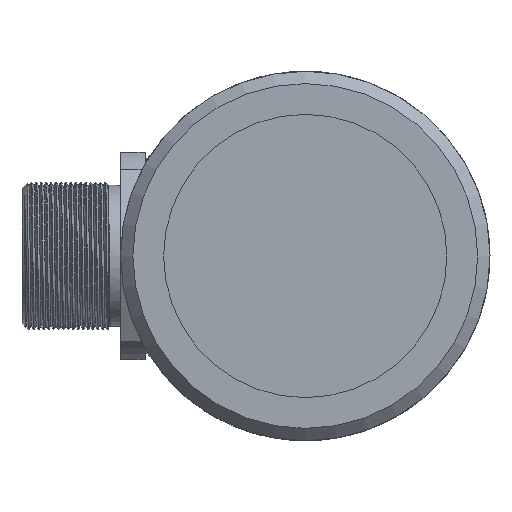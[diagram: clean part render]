
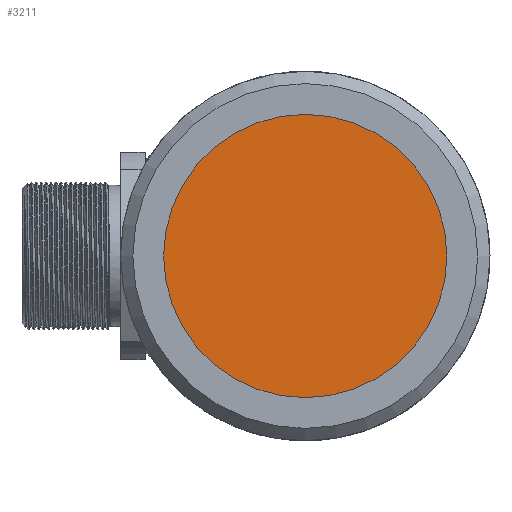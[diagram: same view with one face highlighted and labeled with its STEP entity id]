
A CAD part, left-side view. The second image highlights one B-rep face of the part: STEP entity #3211.
In plain terms, the highlighted planar face has unit normal (-1, 0, 0).
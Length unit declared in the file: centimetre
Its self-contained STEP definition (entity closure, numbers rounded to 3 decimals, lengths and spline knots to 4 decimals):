
#1065=PLANE('',#3417);
#1148=VERTEX_POINT('',#4169);
#1402=CIRCLE('',#3415,1.15);
#1499=EDGE_CURVE('',#1148,#1148,#1402,.T.);
#1927=ORIENTED_EDGE('',*,*,#1499,.T.);
#2738=EDGE_LOOP('',(#1927));
#2977=FACE_BOUND('',#2738,.T.);
#3211=ADVANCED_FACE('',(#2977),#1065,.T.);
#3415=AXIS2_PLACEMENT_3D('',#4168,#3656,#3657);
#3417=AXIS2_PLACEMENT_3D('',#4172,#3660,$);
#3656=DIRECTION('',(-1.,0.,0.));
#3657=DIRECTION('',(0.,0.,1.15));
#3660=DIRECTION('',(-1.,0.,0.));
#4168=CARTESIAN_POINT('',(0.1,0.,0.));
#4169=CARTESIAN_POINT('',(0.1,0.,1.15));
#4172=CARTESIAN_POINT('',(0.1,0.,0.));
